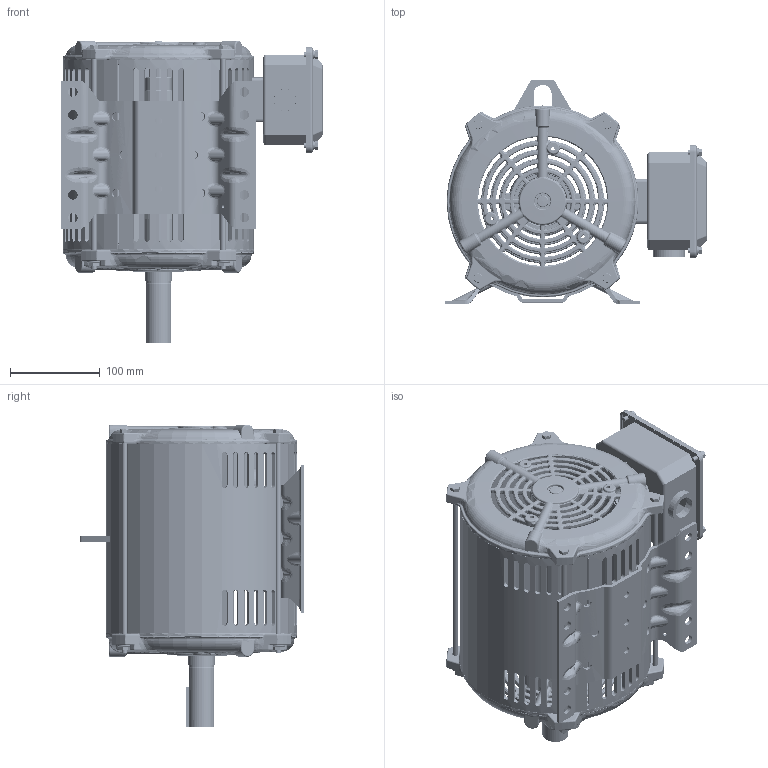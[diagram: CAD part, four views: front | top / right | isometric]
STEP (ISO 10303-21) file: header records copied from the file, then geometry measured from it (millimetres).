
FILE_DESCRIPTION (( 'STEP AP203' ), '1' );
FILE_NAME ('SS600198-200_RevF.STEP', '2022-07-15T09:55:05', ( '' ), ( '' ), 'SwSTEP 2.0', 'SolidWorks 2021', '' );
FILE_SCHEMA (( 'CONFIG_CONTROL_DESIGN' ));
Products named in the file (1): SS600198-200_RevF
Bounding box: 290.15 x 249.8 x 336.55 mm (x, y, z)
Volume: 1527919.1 mm3; surface area: 760115.6 mm2
Topology: 35 solids, 35 shells, 5670 faces, 14111 edges, 8354 vertices
Faces by surface type: bspline 2200, cylinder 1421, torus 854, plane 789, cone 233, sphere 173
Entity records: 267480 total; most frequent: CARTESIAN_POINT 151176, ORIENTED_EDGE 27932, DIRECTION 19806, EDGE_CURVE 13966, AXIS2_PLACEMENT_3D 8522, VERTEX_POINT 8339, EDGE_LOOP 6019, B_SPLINE_CURVE_WITH_KNOTS 5728
